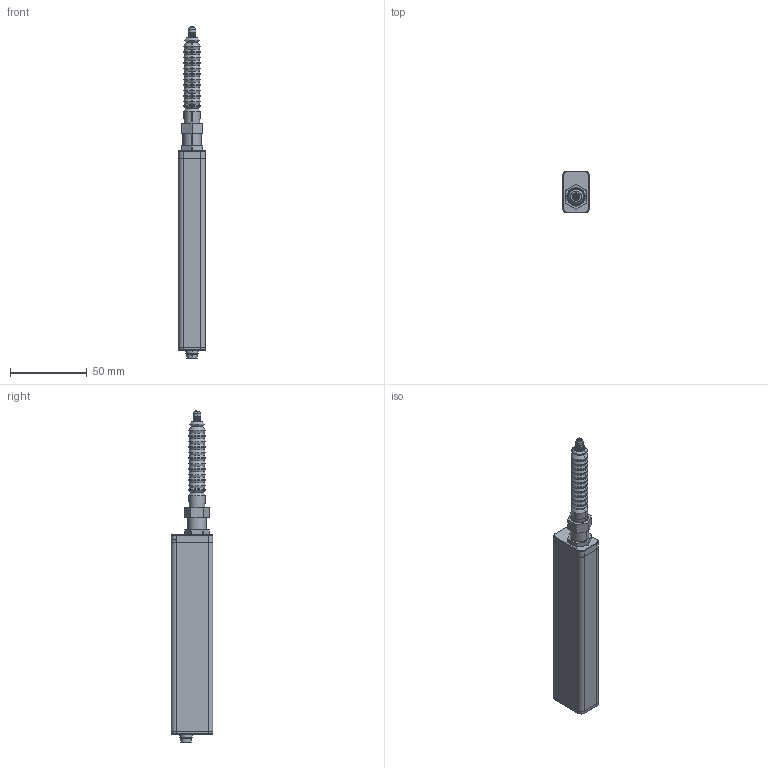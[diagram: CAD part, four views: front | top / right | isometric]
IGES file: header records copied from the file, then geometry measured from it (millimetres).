
Start section: SolidWorks IGES file using analytic representation for surfaces
Global section: file name: S:\秘　SolidWorks\外観データ\Iges\SA-S532_iges_01.IGS; native system: SolidWorks 2016; preprocessor: SolidWorks 2016; author: mizukoshi; date: 200127.090522; units: millimetre
Bounding box: 17.5 x 27.09 x 216.92 mm (x, y, z)
Surface area: 19047.6 mm2 (no closed solid volume)
Topology: 0 solids, 0 shells, 352 faces, 3072 edges, 3061 vertices
Faces by surface type: bspline 185, revolution 167
